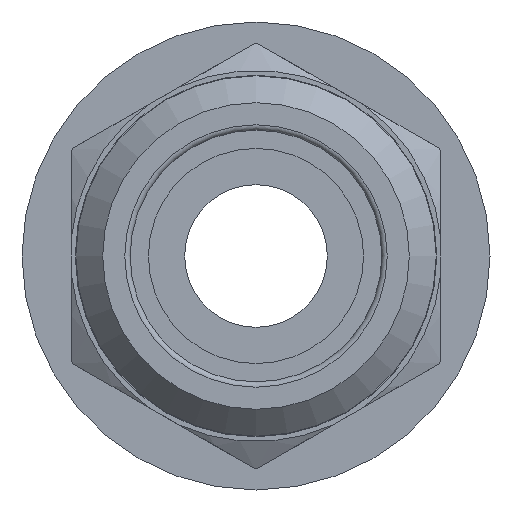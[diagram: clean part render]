
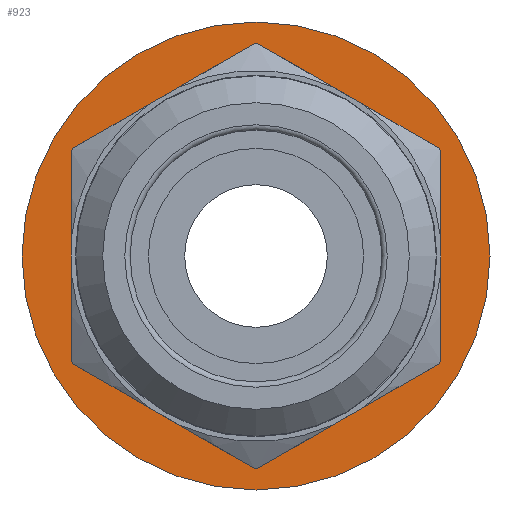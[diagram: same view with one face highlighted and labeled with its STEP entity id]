
A CAD part, front view. The second image highlights one B-rep face of the part: STEP entity #923.
In plain terms, the highlighted planar face has unit normal (0, -1, 0).
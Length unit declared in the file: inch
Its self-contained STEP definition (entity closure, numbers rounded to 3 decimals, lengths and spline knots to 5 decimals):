
#55=FACE_BOUND('',#176,.T.);
#68=PLANE('',#1035);
#118=FACE_OUTER_BOUND('',#175,.T.);
#175=EDGE_LOOP('',(#701,#702));
#176=EDGE_LOOP('',(#703,#704));
#326=CIRCLE('',#1036,0.435);
#327=CIRCLE('',#1037,0.435);
#328=CIRCLE('',#1038,0.23);
#329=CIRCLE('',#1039,0.23);
#409=VERTEX_POINT('',#1536);
#410=VERTEX_POINT('',#1537);
#411=VERTEX_POINT('',#1540);
#412=VERTEX_POINT('',#1541);
#520=EDGE_CURVE('',#409,#410,#326,.T.);
#521=EDGE_CURVE('',#410,#409,#327,.T.);
#522=EDGE_CURVE('',#411,#412,#328,.T.);
#523=EDGE_CURVE('',#412,#411,#329,.T.);
#701=ORIENTED_EDGE('',*,*,#520,.T.);
#702=ORIENTED_EDGE('',*,*,#521,.T.);
#703=ORIENTED_EDGE('',*,*,#522,.F.);
#704=ORIENTED_EDGE('',*,*,#523,.F.);
#923=ADVANCED_FACE('',(#118,#55),#68,.T.);
#1035=AXIS2_PLACEMENT_3D('',#1535,#1236,#1237);
#1036=AXIS2_PLACEMENT_3D('',#1538,#1238,#1239);
#1037=AXIS2_PLACEMENT_3D('',#1539,#1240,#1241);
#1038=AXIS2_PLACEMENT_3D('',#1542,#1242,#1243);
#1039=AXIS2_PLACEMENT_3D('',#1543,#1244,#1245);
#1236=DIRECTION('center_axis',(0.,-1.,0.));
#1237=DIRECTION('ref_axis',(0.,0.,-1.));
#1238=DIRECTION('center_axis',(0.,-1.,0.));
#1239=DIRECTION('ref_axis',(1.,0.,0.));
#1240=DIRECTION('center_axis',(0.,-1.,0.));
#1241=DIRECTION('ref_axis',(1.,0.,0.));
#1242=DIRECTION('center_axis',(0.,-1.,0.));
#1243=DIRECTION('ref_axis',(1.,0.,0.));
#1244=DIRECTION('center_axis',(0.,-1.,0.));
#1245=DIRECTION('ref_axis',(1.,0.,0.));
#1535=CARTESIAN_POINT('Origin',(0.,0.,-0.23));
#1536=CARTESIAN_POINT('',(0.,0.,-0.435));
#1537=CARTESIAN_POINT('',(0.,0.,0.435));
#1538=CARTESIAN_POINT('Origin',(0.,0.,0.));
#1539=CARTESIAN_POINT('Origin',(0.,0.,0.));
#1540=CARTESIAN_POINT('',(0.,0.,-0.23));
#1541=CARTESIAN_POINT('',(0.,0.,0.23));
#1542=CARTESIAN_POINT('Origin',(0.,0.,0.));
#1543=CARTESIAN_POINT('Origin',(0.,0.,0.));
